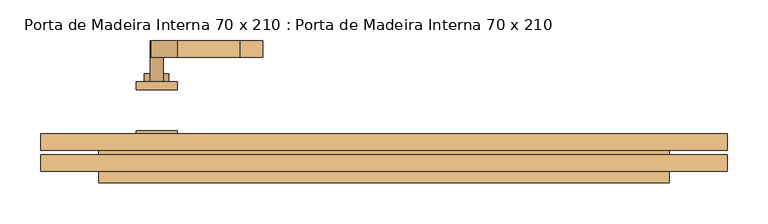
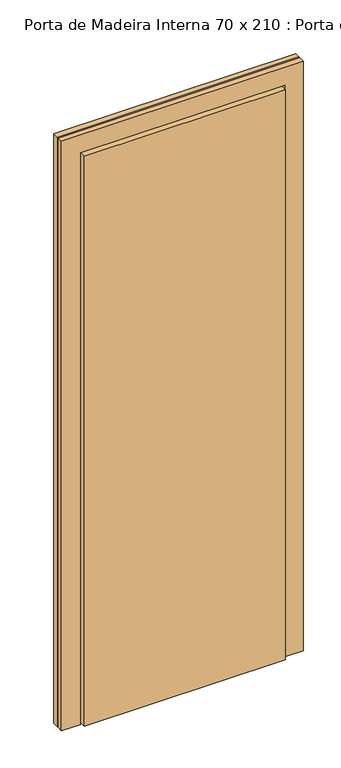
"""IFC4 building model written with IfcOpenShell, lengths in millimetres: door geometry, Porta de Madeira Interna 70 x 210 : Porta de Madeira Interna 70 x 210."""

import ifcopenshell
import ifcopenshell.guid

model = None  # the IFC model being written
_history = None  # IfcOwnerHistory: only IFC2X3 demands one
_inside = {}  # id of a spatial element -> (the spatial element, [elements in it])
_under = {}  # id of a project, library or spatial element -> (it, [spatial elements below it])
_declared = {}  # id of a project -> (the project, [libraries it declares])
_typed = {}  # id of a type object -> (the type object, [elements of that type])
_made_of = {}  # id of a material, layer set ... -> (it, [elements and type objects made of it])


def new_model(schema):
    """Start an empty IFC model of exactly this schema.

    Asked for "IFC4X3", IfcOpenShell would pick the latest addendum, in which some entities
    have other attributes; the version numbers below select the first issue.
    IFC2X3 requires an IfcOwnerHistory on every rooted entity: one is made here for all.
    """
    global model, _history
    if schema == "IFC4X3":
        model = ifcopenshell.file(schema_version=(4, 3, 0, 0))
    else:
        model = ifcopenshell.file(schema=schema)
    _inside.clear()
    _under.clear()
    _declared.clear()
    _typed.clear()
    _made_of.clear()
    _history = None
    if model.schema == "IFC2X3":
        org = make("IfcOrganization", Name="unknown")
        user = make(
            "IfcPersonAndOrganization",
            ThePerson=make("IfcPerson", FamilyName="unknown"),
            TheOrganization=org,
        )
        app = make(
            "IfcApplication",
            ApplicationDeveloper=org,
            Version="unknown",
            ApplicationFullName="unknown",
            ApplicationIdentifier="unknown",
        )
        _history = make(
            "IfcOwnerHistory",
            OwningUser=user,
            OwningApplication=app,
            ChangeAction="ADDED",
            CreationDate=0,
        )
    return model


def make(cls, **values):
    """One entity of the class cls with the attributes given. An attribute that is None is left unset."""
    return model.create_entity(
        cls, **{name: value for name, value in values.items() if value is not None}
    )


def rooted(cls, **values):
    """An entity with a GlobalId (a new one), such as an element, a storey or a relation."""
    return make(cls, GlobalId=ifcopenshell.guid.new(), OwnerHistory=_history, **values)


def si_unit(unit_type, name, prefix=None):
    """IfcSIUnit, for example si_unit("LENGTHUNIT", "METRE", prefix="MILLI")."""
    return make("IfcSIUnit", UnitType=unit_type, Prefix=prefix, Name=name)


def assignment(units):
    """IfcUnitAssignment: the units of a project."""
    return None if units is None else make("IfcUnitAssignment", Units=units)


def point(xyz):
    """IfcCartesianPoint."""
    return None if xyz is None else make("IfcCartesianPoint", Coordinates=xyz)


def direction(xyz):
    """IfcDirection."""
    return None if xyz is None else make("IfcDirection", DirectionRatios=xyz)


def frame(location, z_axis=None, x_axis=None):
    """IfcAxis2Placement3D, a coordinate frame: its origin and axes. An axis left out is left unset."""
    return make(
        "IfcAxis2Placement3D",
        Location=point(location),
        Axis=direction(z_axis),
        RefDirection=direction(x_axis),
    )


def frame_2d(location, x_axis=None):
    """IfcAxis2Placement2D, a coordinate frame in the plane: its origin and x axis."""
    return make(
        "IfcAxis2Placement2D", Location=point(location), RefDirection=direction(x_axis)
    )


def origin():
    """The frame at (0, 0, 0) with its axes left unset."""
    return frame((0.0, 0.0, 0.0))


def origin_with_axes():
    """The frame at (0, 0, 0) with the z axis (0, 0, 1) and the x axis (1, 0, 0) written out."""
    return frame((0.0, 0.0, 0.0), z_axis=(0.0, 0.0, 1.0), x_axis=(1.0, 0.0, 0.0))


def place(relative_to, where):
    """IfcLocalPlacement: puts the frame where relative to a parent placement (None: the world)."""
    return make(
        "IfcLocalPlacement", PlacementRelTo=relative_to, RelativePlacement=where
    )


def context(
    kind, dimensions, precision=None, world=None, true_north=None, identifier=None
):
    """IfcGeometricRepresentationContext, for example the 3D "Model" context."""
    return make(
        "IfcGeometricRepresentationContext",
        ContextIdentifier=identifier,
        ContextType=kind,
        CoordinateSpaceDimension=dimensions,
        Precision=precision,
        WorldCoordinateSystem=world,
        TrueNorth=true_north,
    )


def project(units=None, contexts=None):
    """IfcProject with its units and contexts."""
    return rooted(
        "IfcProject",
        Name="project",
        RepresentationContexts=contexts,
        UnitsInContext=assignment(units),
    )


def spatial(cls, under=None, at=None, **own):
    """A site, building, storey or space (cls), placed at a placement, below another one or the project."""
    s = rooted(cls, ObjectPlacement=at, **own)
    if under is not None:
        _under.setdefault(under.id(), (under, []))[1].append(s)
    return s


def polyline(points):
    """IfcPolyline through the points."""
    return make("IfcPolyline", Points=[point(p) for p in points])


def circle_curve(where, radius):
    """IfcCircle in the frame where."""
    return make("IfcCircle", Position=where, Radius=radius)


def trimmed(basis, trim1, trim2, sense, master):
    """IfcTrimmedCurve: the piece of a basis curve between two trims."""
    return make(
        "IfcTrimmedCurve",
        BasisCurve=basis,
        Trim1=trim1,
        Trim2=trim2,
        SenseAgreement=sense,
        MasterRepresentation=master,
    )


def segment(curve, same_sense, transition):
    """IfcCompositeCurveSegment."""
    return make(
        "IfcCompositeCurveSegment",
        Transition=transition,
        SameSense=same_sense,
        ParentCurve=curve,
    )


def composite_curve(segments, self_intersect=None):
    """IfcCompositeCurve: segments joined end to end."""
    return make("IfcCompositeCurve", Segments=segments, SelfIntersect=self_intersect)


def outline(outer, holes=None, kind="AREA"):
    """IfcArbitraryClosedProfileDef: a profile drawn as a closed curve; with holes, ...WithVoids."""
    if holes is None:
        return make("IfcArbitraryClosedProfileDef", ProfileType=kind, OuterCurve=outer)
    return make(
        "IfcArbitraryProfileDefWithVoids",
        ProfileType=kind,
        OuterCurve=outer,
        InnerCurves=holes,
    )


def extrude(swept, where, along, depth):
    """IfcExtrudedAreaSolid: the profile swept, set in the frame where, extruded along a direction by depth."""
    return make(
        "IfcExtrudedAreaSolid",
        SweptArea=swept,
        Position=where,
        ExtrudedDirection=direction(along),
        Depth=depth,
    )


def shape(context_of_items, identifier, shape_type, items):
    """IfcShapeRepresentation: the items that make up one representation, for example the "Body"."""
    return make(
        "IfcShapeRepresentation",
        ContextOfItems=context_of_items,
        RepresentationIdentifier=identifier,
        RepresentationType=shape_type,
        Items=items,
    )


def source(mapping_origin, context_of_items, identifier, shape_type, items):
    """IfcRepresentationMap: a shape defined once, which mapped items show again and again."""
    return make(
        "IfcRepresentationMap",
        MappingOrigin=mapping_origin,
        MappedRepresentation=shape(context_of_items, identifier, shape_type, items),
    )


def transform(
    local_origin,
    x_axis=None,
    y_axis=None,
    z_axis=None,
    scale=None,
    scale2=None,
    scale3=None,
    uniform=True,
):
    """IfcCartesianTransformationOperator3D, or its non-uniform kind. x_axis, y_axis, z_axis: its Axis1, 2, 3."""
    if uniform:
        return make(
            "IfcCartesianTransformationOperator3D",
            Axis1=direction(x_axis),
            Axis2=direction(y_axis),
            LocalOrigin=point(local_origin),
            Scale=scale,
            Axis3=direction(z_axis),
        )
    return make(
        "IfcCartesianTransformationOperator3DnonUniform",
        Axis1=direction(x_axis),
        Axis2=direction(y_axis),
        LocalOrigin=point(local_origin),
        Scale=scale,
        Axis3=direction(z_axis),
        Scale2=scale2,
        Scale3=scale3,
    )


def mapped(mapping_source, mapping_target):
    """IfcMappedItem: shows the shape of a source again, moved by a transform."""
    return make(
        "IfcMappedItem", MappingSource=mapping_source, MappingTarget=mapping_target
    )


def made_of(thing, what):
    """Note that an element or type object is made of a material, layer set ...; save() writes the relation."""
    if what is not None:
        _made_of.setdefault(what.id(), (what, []))[1].append(thing)
    return thing


def element(
    cls,
    number,
    at=None,
    inside=None,
    cuts=None,
    type_object=None,
    material=None,
    context=None,
    identifier="Body",
    shape_type=None,
    held_by="IfcProductDefinitionShape",
    body=None,
    shapes=None,
    **own,
):
    """One element of the class cls, such as IfcWall. Its Tag is "e" and its number.

    at: its placement. inside: the storey or other place that contains it. cuts: it is an
    opening in that element (IfcRelVoidsElement). A single representation is given by context,
    identifier, shape_type and body (its items); several are given by shapes. held_by: the class
    of the entity that holds the representations. save() writes the other relations.
    """
    e = rooted(cls, Tag="e%d" % number, ObjectPlacement=at, **own)
    if body is not None:
        shapes = [shape(context, identifier, shape_type, body)]
    if shapes is not None:
        e.Representation = make(held_by, Representations=shapes)
    if inside is not None:
        _inside.setdefault(inside.id(), (inside, []))[1].append(e)
    if cuts is not None:
        rooted(
            "IfcRelVoidsElement", RelatingBuildingElement=cuts, RelatedOpeningElement=e
        )
    if type_object is not None:
        _typed.setdefault(type_object.id(), (type_object, []))[1].append(e)
    return made_of(e, material)


def aggregate(whole, parts):
    """IfcRelAggregates: a whole, such as a stair, and the parts it consists of."""
    return rooted("IfcRelAggregates", RelatingObject=whole, RelatedObjects=parts)


def save(model, path):
    """Write the relations noted so far, then the file.

    IfcRelAggregates (storeys below a building ...), IfcRelContainedInSpatialStructure (elements
    in a storey), IfcRelDefinesByType, IfcRelAssociatesMaterial and IfcRelDeclares: one each for
    every whole, place, type object, material and project.
    """
    for whole, parts in _under.values():
        aggregate(whole, parts)
    for where, things in _inside.values():
        rooted(
            "IfcRelContainedInSpatialStructure",
            RelatedElements=things,
            RelatingStructure=where,
        )
    for kind, things in _typed.values():
        rooted("IfcRelDefinesByType", RelatedObjects=things, RelatingType=kind)
    for what, things in _made_of.values():
        rooted("IfcRelAssociatesMaterial", RelatedObjects=things, RelatingMaterial=what)
    for by, libraries in _declared.values():
        rooted("IfcRelDeclares", RelatingContext=by, RelatedDefinitions=libraries)
    model.write(path)


def porta_de_madeira_interna_70_x_210_porta_de_madeira_interna_a3714ee7(model_context):
    return source(origin(), model_context, "Body", "SweptSolid", [
        extrude(outline(composite_curve([segment(trimmed(circle_curve(frame_2d((854.4, -279.0)), 15.0), [point((854.4, -264.0))], [point((854.4, -294.0))], False, "CARTESIAN"), True, "CONTINUOUS"), segment(trimmed(circle_curve(frame_2d((854.4, -279.0)), 15.0), [point((854.4, -294.0))], [point((854.4, -264.0))], False, "CARTESIAN"), True, "CONTINUOUS")], self_intersect=False)), frame((0.0, 83.975, 0.0), z_axis=(0.0, 1.0, 0.0), x_axis=(0.0, 0.0, 1.0)), (0.0, 0.0, 1.0), 10.0),
        extrude(outline(composite_curve([segment(trimmed(circle_curve(frame_2d((854.4, -279.0)), 15.0), [point((854.4, -264.0))], [point((854.4, -294.0))], False, "CARTESIAN"), True, "CONTINUOUS"), segment(trimmed(circle_curve(frame_2d((854.4, -279.0)), 15.0), [point((854.4, -294.0))], [point((854.4, -264.0))], False, "CARTESIAN"), True, "CONTINUOUS")], self_intersect=False)), frame((0.0, 3.975, 0.0), z_axis=(0.0, 1.0, 0.0), x_axis=(0.0, 0.0, 1.0)), (0.0, 0.0, 1.0), 10.0),
        extrude(outline(composite_curve([segment(trimmed(circle_curve(frame_2d((914.4, -279.0)), 8.0), [point((919.0523287, -285.5081363))], [point((914.4, -271.0))], False, "CARTESIAN"), True, "CONTINUOUS"), segment(trimmed(circle_curve(frame_2d((909.2738613, -253.6138099)), 18.1261387), [point((914.4, -271.0))], [point((927.4, -253.6138099))], True, "CARTESIAN"), True, "CONTINUOUS"), segment(polyline([(927.4, -253.6138099), (927.4, -177.3564091)]), True, "CONTINUOUS"), segment(trimmed(circle_curve(frame_2d((986.6709207, -180.9396612)), 59.3791355), [point((927.4, -177.3564091))], [point((936.6135558, -149.0))], False, "CARTESIAN"), True, "CONTINUOUS"), segment(polyline([(936.6135558, -149.0), (939.4, -149.0)]), True, "CONTINUOUS"), segment(trimmed(circle_curve(frame_2d((1017.6850638, -177.4227909)), 83.2850902), [point((939.4, -149.0))], [point((934.4, -177.3564091))], True, "CARTESIAN"), True, "CONTINUOUS"), segment(polyline([(934.4, -177.3564091), (934.4, -253.6325667)]), True, "CONTINUOUS"), segment(trimmed(circle_curve(frame_2d((897.1555521, -255.3324871)), 37.2832219), [point((934.4, -253.6325667))], [point((919.0523287, -285.5081363))], False, "CARTESIAN"), True, "CONTINUOUS")], self_intersect=False)), frame((0.0, 113.975, 0.0), z_axis=(0.0, 1.0, 0.0), x_axis=(0.0, 0.0, 1.0)), (0.0, 0.0, 1.0), 20.0),
        extrude(outline(composite_curve([segment(trimmed(circle_curve(frame_2d((909.2738682, -253.6138122)), 18.1261318), [point((914.3999903, -271.0))], [point((927.4, -253.6138122))], True, "CARTESIAN"), True, "CONTINUOUS"), segment(polyline([(927.4, -253.6138122), (927.4, -177.3564091)]), True, "CONTINUOUS"), segment(trimmed(circle_curve(frame_2d((986.6709207, -180.9396612)), 59.3791355), [point((927.4, -177.3564091))], [point((936.6135558, -149.0))], False, "CARTESIAN"), True, "CONTINUOUS"), segment(polyline([(936.6135558, -149.0), (939.4, -149.0)]), True, "CONTINUOUS"), segment(trimmed(circle_curve(frame_2d((1017.6850638, -177.4227909)), 83.2850902), [point((939.4, -149.0))], [point((934.4, -177.3564091))], True, "CARTESIAN"), True, "CONTINUOUS"), segment(polyline([(934.4, -177.3564091), (934.4, -253.6325667)]), True, "CONTINUOUS"), segment(trimmed(circle_curve(frame_2d((897.1555521, -255.3324871)), 37.2832219), [point((934.4, -253.6325667))], [point((919.0523287, -285.5081363))], False, "CARTESIAN"), True, "CONTINUOUS"), segment(trimmed(circle_curve(frame_2d((914.4, -279.0)), 8.0), [point((919.0523287, -285.5081363))], [point((914.3999903, -271.0))], False, "CARTESIAN"), True, "CONTINUOUS")], self_intersect=False)), frame((0.0, -36.025, 0.0), z_axis=(0.0, 1.0, 0.0), x_axis=(0.0, 0.0, 1.0)), (0.0, 0.0, 1.0), 20.0),
        extrude(outline(composite_curve([segment(trimmed(circle_curve(frame_2d((914.4, -279.0)), 8.0), [point((914.4, -271.0))], [point((914.4, -287.0))], False, "CARTESIAN"), True, "CONTINUOUS"), segment(trimmed(circle_curve(frame_2d((914.4, -279.0)), 8.0), [point((914.4, -287.0))], [point((914.4, -271.0))], False, "CARTESIAN"), True, "CONTINUOUS")], self_intersect=False)), frame((0.0, 83.975, 0.0), z_axis=(0.0, 1.0, 0.0), x_axis=(0.0, 0.0, 1.0)), (0.0, 0.0, 1.0), 30.0),
        extrude(outline(composite_curve([segment(trimmed(circle_curve(frame_2d((914.4, -279.0)), 8.0), [point((914.4, -271.0))], [point((914.4, -287.0))], False, "CARTESIAN"), True, "CONTINUOUS"), segment(trimmed(circle_curve(frame_2d((914.4, -279.0)), 8.0), [point((914.4, -287.0))], [point((914.4, -271.0))], False, "CARTESIAN"), True, "CONTINUOUS")], self_intersect=False)), frame((0.0, -16.025, 0.0), z_axis=(0.0, 1.0, 0.0), x_axis=(0.0, 0.0, 1.0)), (0.0, 0.0, 1.0), 30.0),
        extrude(outline(composite_curve([segment(trimmed(circle_curve(frame_2d((844.4, -279.0)), 25.0), [point((844.4, -304.0))], [point((844.4, -254.0))], False, "CARTESIAN"), True, "CONTINUOUS"), segment(polyline([(844.4, -254.0), (914.4, -254.0)]), True, "CONTINUOUS"), segment(trimmed(circle_curve(frame_2d((914.4, -279.0)), 25.0), [point((914.4, -254.0))], [point((914.4, -304.0))], False, "CARTESIAN"), True, "CONTINUOUS"), segment(polyline([(914.4, -304.0), (844.4, -304.0)]), True, "CONTINUOUS")], self_intersect=False)), frame((0.0, 73.975, 0.0), z_axis=(0.0, 1.0, 0.0), x_axis=(0.0, 0.0, 1.0)), (0.0, 0.0, 1.0), 10.0),
        extrude(outline(composite_curve([segment(trimmed(circle_curve(frame_2d((844.4, -279.0)), 25.0), [point((844.4, -304.0))], [point((844.4, -254.0))], False, "CARTESIAN"), True, "CONTINUOUS"), segment(polyline([(844.4, -254.0), (914.4, -254.0)]), True, "CONTINUOUS"), segment(trimmed(circle_curve(frame_2d((914.4, -279.0)), 25.0), [point((914.4, -254.0))], [point((914.4, -304.0))], False, "CARTESIAN"), True, "CONTINUOUS"), segment(polyline([(914.4, -304.0), (844.4, -304.0)]), True, "CONTINUOUS")], self_intersect=False)), frame((0.0, 13.975, 0.0), z_axis=(0.0, 1.0, 0.0), x_axis=(0.0, 0.0, 1.0)), (0.0, 0.0, 1.0), 10.0),
        extrude(outline(polyline([(350.0, -40.175), (-350.0, -40.175), (-350.0, -0.175), (350.0, -0.175), (350.0, -40.175)])), origin_with_axes(), (0.0, 0.0, 1.0), 2100.0),
        extrude(outline(polyline([(0.0, 356.35), (0.0, 421.35), (2171.35, 421.35), (2171.35, -421.35), (0.0, -421.35), (0.0, -356.35), (2106.35, -356.35), (2106.35, 356.35), (0.0, 356.35)])), frame((0.0, -26.175, 0.0), z_axis=(0.0, 1.0, 0.0), x_axis=(0.0, 0.0, 1.0)), (0.0, 0.0, 1.0), 20.0),
        extrude(outline(polyline([(0.0, 356.35), (0.0, 421.35), (2171.35, 421.35), (2171.35, -421.35), (0.0, -421.35), (0.0, -356.35), (2106.35, -356.35), (2106.35, 356.35), (0.0, 356.35)])), frame((0.0, -0.175, 0.0), z_axis=(0.0, 1.0, 0.0), x_axis=(0.0, 0.0, 1.0)), (0.0, 0.0, 1.0), 20.0),
    ])


if __name__ == "__main__":
    model = new_model("IFC4")
    model_context = context("Model", 3, world=origin())
    ifc_project = project(units=[si_unit("LENGTHUNIT", "METRE", prefix="MILLI")], contexts=[model_context])
    site = spatial("IfcSite", under=ifc_project)
    building = spatial("IfcBuilding", under=site)
    placement = place(None, origin())
    porta_de_madeira_interna_70_x_210_porta_de_madeira_interna_shape = porta_de_madeira_interna_70_x_210_porta_de_madeira_interna_a3714ee7(model_context)
    element("IfcDoor", 1, ObjectType="Porta de Madeira Interna 70 x 210 : Porta de Madeira Interna 70 x 210", at=placement, inside=building, context=model_context, shape_type="MappedRepresentation", body=[
        mapped(porta_de_madeira_interna_70_x_210_porta_de_madeira_interna_shape, transform((0.0, 0.0, 0.0), x_axis=(1.0, 0.0, 0.0), y_axis=(0.0, 1.0, 0.0), z_axis=(0.0, 0.0, 1.0))),
    ])
    save(model, "model.ifc")
